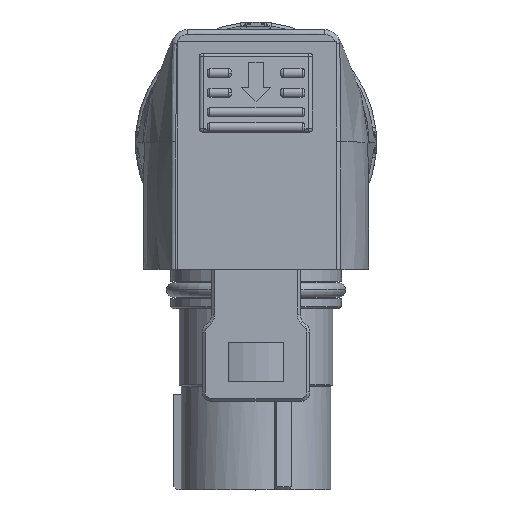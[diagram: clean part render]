
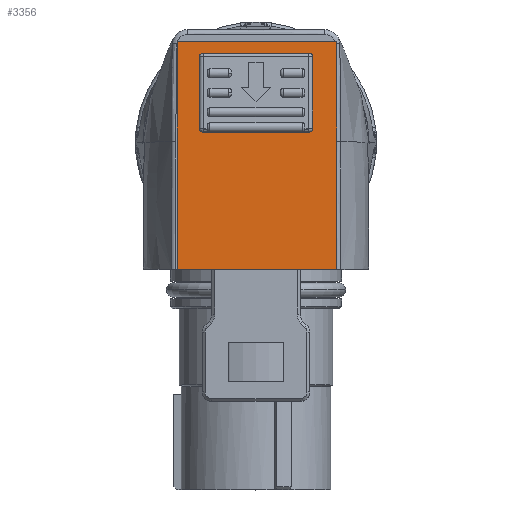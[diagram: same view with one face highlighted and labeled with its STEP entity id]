
A CAD part, top view. The second image highlights one B-rep face of the part: STEP entity #3356.
In plain terms, the highlighted planar face has unit normal (0, 0, 1).
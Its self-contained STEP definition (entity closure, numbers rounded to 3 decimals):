
#1021 = VECTOR ( 'NONE', #4559, 1000. ) ;
#1151 = CIRCLE ( 'NONE', #23715, 0.3 ) ;
#1197 = LINE ( 'NONE', #4056, #1212 ) ;
#1212 = VECTOR ( 'NONE', #4063, 1000. ) ;
#1230 = LINE ( 'NONE', #4763, #1331 ) ;
#1253 = LINE ( 'NONE', #16846, #1255 ) ;
#1255 = VECTOR ( 'NONE', #16841, 1000. ) ;
#1318 = VECTOR ( 'NONE', #4543, 1000. ) ;
#1331 = VECTOR ( 'NONE', #4762, 1000. ) ;
#1337 = LINE ( 'NONE', #4556, #1021 ) ;
#1358 = LINE ( 'NONE', #4542, #1318 ) ;
#1742 = B_SPLINE_CURVE_WITH_KNOTS ( 'NONE', 3,
 ( #22066, #22065, #22063, #22067, #22068, #22069, #22070, #22071 ),
 .UNSPECIFIED., .F., .F.,
 ( 4, 2, 2, 4 ),
 ( 0., 0., 0., 0. ),
 .UNSPECIFIED. ) ;
#1832 =( BOUNDED_CURVE ( )  B_SPLINE_CURVE ( 3, ( #24678, #24666, #24669, #24682 ),
 .UNSPECIFIED., .F., .F. ) 
 B_SPLINE_CURVE_WITH_KNOTS ( ( 4, 4 ),
 ( 4.712, 4.914 ),
 .UNSPECIFIED. ) 
 CURVE ( )  GEOMETRIC_REPRESENTATION_ITEM ( )  RATIONAL_B_SPLINE_CURVE ( ( 1., 0.997, 0.997, 1. ) ) 
 REPRESENTATION_ITEM ( '' )  );
#2494 = EDGE_CURVE ( 'NONE', #7844, #8321, #1742, .T. ) ;
#2530 = EDGE_CURVE ( 'NONE', #7998, #7967, #19276, .T. ) ;
#2642 = EDGE_CURVE ( 'NONE', #7958, #7827, #1832, .T. ) ;
#3356 = ADVANCED_FACE ( 'NONE', ( #10048, #9817 ), #20335, .T. ) ;
#4056 = CARTESIAN_POINT ( 'NONE',  ( -16.446, 0., 37.032 ) ) ;
#4063 = DIRECTION ( 'NONE',  ( 0., 1., 0. ) ) ;
#4542 = CARTESIAN_POINT ( 'NONE',  ( -18.677, 9.124, 37.032 ) ) ;
#4543 = DIRECTION ( 'NONE',  ( 0., -1., 0. ) ) ;
#4556 = CARTESIAN_POINT ( 'NONE',  ( -18.677, 9.124, 37.032 ) ) ;
#4559 = DIRECTION ( 'NONE',  ( -1., 0., 0. ) ) ;
#4762 = DIRECTION ( 'NONE',  ( 1., 0., 0. ) ) ;
#4763 = CARTESIAN_POINT ( 'NONE',  ( 0., -0.077, 37.032 ) ) ;
#4883 = CARTESIAN_POINT ( 'NONE',  ( -4.854, 7.627, 37.032 ) ) ;
#4885 = CARTESIAN_POINT ( 'NONE',  ( -4.855, 7.71, 37.032 ) ) ;
#4893 = CARTESIAN_POINT ( 'NONE',  ( -4.893, 7.791, 37.032 ) ) ;
#4894 = CARTESIAN_POINT ( 'NONE',  ( -4.986, 7.872, 37.032 ) ) ;
#4895 = CARTESIAN_POINT ( 'NONE',  ( -5.023, 7.893, 37.032 ) ) ;
#4896 = CARTESIAN_POINT ( 'NONE',  ( -5.102, 7.918, 37.032 ) ) ;
#4897 = CARTESIAN_POINT ( 'NONE',  ( -5.144, 7.923, 37.032 ) ) ;
#4898 = CARTESIAN_POINT ( 'NONE',  ( -5.185, 7.923, 37.032 ) ) ;
#5795 = CARTESIAN_POINT ( 'NONE',  ( -4.846, 0., 37.032 ) ) ;
#5796 = DIRECTION ( 'NONE',  ( 0., -1., 0. ) ) ;
#5850 = CARTESIAN_POINT ( 'NONE',  ( -18.677, -14.077, 37.032 ) ) ;
#5851 = DIRECTION ( 'NONE',  ( 1., 0., 0. ) ) ;
#6200 = CARTESIAN_POINT ( 'NONE',  ( -16.146, 0.223, 37.032 ) ) ;
#6201 = DIRECTION ( 'NONE',  ( 0., 0., 1. ) ) ;
#6202 = DIRECTION ( 'NONE',  ( 1., 0., 0. ) ) ;
#6454 = CARTESIAN_POINT ( 'NONE',  ( -5.146, 0.223, 37.032 ) ) ;
#6455 = DIRECTION ( 'NONE',  ( 0., 0., 1. ) ) ;
#6456 = DIRECTION ( 'NONE',  ( 1., 0., 0. ) ) ;
#7793 = VERTEX_POINT ( 'NONE', #15850 ) ;
#7820 = ORIENTED_EDGE ( 'NONE', *, *, #18475, .F. ) ;
#7827 = VERTEX_POINT ( 'NONE', #15901 ) ;
#7843 = VERTEX_POINT ( 'NONE', #15910 ) ;
#7844 = VERTEX_POINT ( 'NONE', #15911 ) ;
#7871 = VERTEX_POINT ( 'NONE', #15937 ) ;
#7953 = VERTEX_POINT ( 'NONE', #15975 ) ;
#7958 = VERTEX_POINT ( 'NONE', #15977 ) ;
#7963 = VERTEX_POINT ( 'NONE', #15972 ) ;
#7967 = VERTEX_POINT ( 'NONE', #15980 ) ;
#7998 = VERTEX_POINT ( 'NONE', #15995 ) ;
#8002 = VERTEX_POINT ( 'NONE', #15998 ) ;
#8085 = ORIENTED_EDGE ( 'NONE', *, *, #18021, .T. ) ;
#8271 = VERTEX_POINT ( 'NONE', #16106 ) ;
#8313 = VERTEX_POINT ( 'NONE', #16123 ) ;
#8321 = VERTEX_POINT ( 'NONE', #16126 ) ;
#8386 = EDGE_LOOP ( 'NONE', ( #26800, #19509, #19368, #19272, #19271, #19366, #8085, #7820, #26659, #26935 ) ) ;
#9232 = EDGE_LOOP ( 'NONE', ( #12830, #25996, #9329, #9330 ) ) ;
#9329 = ORIENTED_EDGE ( 'NONE', *, *, #2530, .T. ) ;
#9330 = ORIENTED_EDGE ( 'NONE', *, *, #18204, .T. ) ;
#9817 = FACE_OUTER_BOUND ( 'NONE', #9232, .T. ) ;
#10048 = FACE_BOUND ( 'NONE', #8386, .T. ) ;
#12830 = ORIENTED_EDGE ( 'NONE', *, *, #18196, .T. ) ;
#15850 = CARTESIAN_POINT ( 'NONE',  ( -16.146, -0.077, 37.032 ) ) ;
#15901 = CARTESIAN_POINT ( 'NONE',  ( -4.854, 7.627, 37.032 ) ) ;
#15910 = CARTESIAN_POINT ( 'NONE',  ( -16.446, 6.479, 37.032 ) ) ;
#15911 = CARTESIAN_POINT ( 'NONE',  ( -16.106, 7.923, 37.032 ) ) ;
#15937 = CARTESIAN_POINT ( 'NONE',  ( -4.846, 0.223, 37.032 ) ) ;
#15972 = CARTESIAN_POINT ( 'NONE',  ( -5.146, -0.077, 37.032 ) ) ;
#15975 = CARTESIAN_POINT ( 'NONE',  ( -18.677, 9.124, 37.032 ) ) ;
#15977 = CARTESIAN_POINT ( 'NONE',  ( -4.846, 6.479, 37.032 ) ) ;
#15980 = CARTESIAN_POINT ( 'NONE',  ( -2.398, 9.124, 37.032 ) ) ;
#15995 = CARTESIAN_POINT ( 'NONE',  ( -2.398, -14.077, 37.032 ) ) ;
#15998 = CARTESIAN_POINT ( 'NONE',  ( -18.677, -14.077, 37.032 ) ) ;
#16106 = CARTESIAN_POINT ( 'NONE',  ( -16.446, 0.223, 37.032 ) ) ;
#16123 = CARTESIAN_POINT ( 'NONE',  ( -5.185, 7.923, 37.032 ) ) ;
#16126 = CARTESIAN_POINT ( 'NONE',  ( -16.438, 7.627, 37.032 ) ) ;
#16763 = CARTESIAN_POINT ( 'NONE',  ( -16.443, 7.249, 37.032 ) ) ;
#16767 = CARTESIAN_POINT ( 'NONE',  ( -16.438, 7.627, 37.032 ) ) ;
#16771 = CARTESIAN_POINT ( 'NONE',  ( -16.446, 6.865, 37.032 ) ) ;
#16772 = CARTESIAN_POINT ( 'NONE',  ( -16.446, 6.479, 37.032 ) ) ;
#16841 = DIRECTION ( 'NONE',  ( 1., 0., 0. ) ) ;
#16846 = CARTESIAN_POINT ( 'NONE',  ( 0., 7.923, 37.032 ) ) ;
#17771 = EDGE_CURVE ( 'NONE', #7958, #7871, #18801, .T. ) ;
#17785 = EDGE_CURVE ( 'NONE', #8002, #7998, #19002, .T. ) ;
#17885 = EDGE_CURVE ( 'NONE', #8271, #7793, #18942, .T. ) ;
#17960 = EDGE_CURVE ( 'NONE', #7963, #7871, #1151, .T. ) ;
#18021 = EDGE_CURVE ( 'NONE', #8271, #7843, #1197, .T. ) ;
#18196 = EDGE_CURVE ( 'NONE', #7953, #8002, #1358, .T. ) ;
#18204 = EDGE_CURVE ( 'NONE', #7967, #7953, #1337, .T. ) ;
#18286 = EDGE_CURVE ( 'NONE', #7793, #7963, #1230, .T. ) ;
#18336 = EDGE_CURVE ( 'NONE', #7827, #8313, #24319, .T. ) ;
#18475 = EDGE_CURVE ( 'NONE', #8321, #7843, #23608, .T. ) ;
#18512 = EDGE_CURVE ( 'NONE', #7844, #8313, #1253, .T. ) ;
#18801 = LINE ( 'NONE', #5795, #18976 ) ;
#18942 = CIRCLE ( 'NONE', #23673, 0.3 ) ;
#18976 = VECTOR ( 'NONE', #5796, 1000. ) ;
#19002 = LINE ( 'NONE', #5850, #19022 ) ;
#19022 = VECTOR ( 'NONE', #5851, 1000. ) ;
#19271 = ORIENTED_EDGE ( 'NONE', *, *, #18286, .F. ) ;
#19272 = ORIENTED_EDGE ( 'NONE', *, *, #17960, .F. ) ;
#19276 = LINE ( 'NONE', #24508, #19303 ) ;
#19303 = VECTOR ( 'NONE', #24515, 1000. ) ;
#19366 = ORIENTED_EDGE ( 'NONE', *, *, #17885, .F. ) ;
#19368 = ORIENTED_EDGE ( 'NONE', *, *, #17771, .T. ) ;
#19509 = ORIENTED_EDGE ( 'NONE', *, *, #2642, .F. ) ;
#20316 = DIRECTION ( 'NONE',  ( 0., 0., 1. ) ) ;
#20330 = CARTESIAN_POINT ( 'NONE',  ( 0., 0., 37.032 ) ) ;
#20335 = PLANE ( 'NONE',  #21753 ) ;
#20338 = DIRECTION ( 'NONE',  ( 1., 0., 0. ) ) ;
#21753 = AXIS2_PLACEMENT_3D ( 'NONE', #20330, #20316, #20338 ) ;
#22063 = CARTESIAN_POINT ( 'NONE',  ( -16.188, 7.919, 37.032 ) ) ;
#22065 = CARTESIAN_POINT ( 'NONE',  ( -16.147, 7.923, 37.032 ) ) ;
#22066 = CARTESIAN_POINT ( 'NONE',  ( -16.106, 7.923, 37.032 ) ) ;
#22067 = CARTESIAN_POINT ( 'NONE',  ( -16.268, 7.893, 37.032 ) ) ;
#22068 = CARTESIAN_POINT ( 'NONE',  ( -16.304, 7.873, 37.032 ) ) ;
#22069 = CARTESIAN_POINT ( 'NONE',  ( -16.398, 7.791, 37.032 ) ) ;
#22070 = CARTESIAN_POINT ( 'NONE',  ( -16.436, 7.711, 37.032 ) ) ;
#22071 = CARTESIAN_POINT ( 'NONE',  ( -16.438, 7.627, 37.032 ) ) ;
#23608 =( BOUNDED_CURVE ( )  B_SPLINE_CURVE ( 3, ( #16767, #16763, #16771, #16772 ),
 .UNSPECIFIED., .F., .F. ) 
 B_SPLINE_CURVE_WITH_KNOTS ( ( 4, 4 ),
 ( 4.511, 4.712 ),
 .UNSPECIFIED. ) 
 CURVE ( )  GEOMETRIC_REPRESENTATION_ITEM ( )  RATIONAL_B_SPLINE_CURVE ( ( 1., 0.997, 0.997, 1. ) ) 
 REPRESENTATION_ITEM ( '' )  );
#23673 = AXIS2_PLACEMENT_3D ( 'NONE', #6200, #6201, #6202 ) ;
#23715 = AXIS2_PLACEMENT_3D ( 'NONE', #6454, #6455, #6456 ) ;
#24319 = B_SPLINE_CURVE_WITH_KNOTS ( 'NONE', 3,
 ( #4883, #4885, #4893, #4894, #4895, #4896, #4897, #4898 ),
 .UNSPECIFIED., .F., .F.,
 ( 4, 2, 2, 4 ),
 ( 0., 0., 0., 0. ),
 .UNSPECIFIED. ) ;
#24508 = CARTESIAN_POINT ( 'NONE',  ( -2.398, 9.124, 37.032 ) ) ;
#24515 = DIRECTION ( 'NONE',  ( 0., 1., 0. ) ) ;
#24666 = CARTESIAN_POINT ( 'NONE',  ( -4.846, 6.865, 37.032 ) ) ;
#24669 = CARTESIAN_POINT ( 'NONE',  ( -4.848, 7.249, 37.032 ) ) ;
#24678 = CARTESIAN_POINT ( 'NONE',  ( -4.846, 6.479, 37.032 ) ) ;
#24682 = CARTESIAN_POINT ( 'NONE',  ( -4.854, 7.627, 37.032 ) ) ;
#25996 = ORIENTED_EDGE ( 'NONE', *, *, #17785, .T. ) ;
#26659 = ORIENTED_EDGE ( 'NONE', *, *, #2494, .F. ) ;
#26800 = ORIENTED_EDGE ( 'NONE', *, *, #18336, .F. ) ;
#26935 = ORIENTED_EDGE ( 'NONE', *, *, #18512, .T. ) ;
